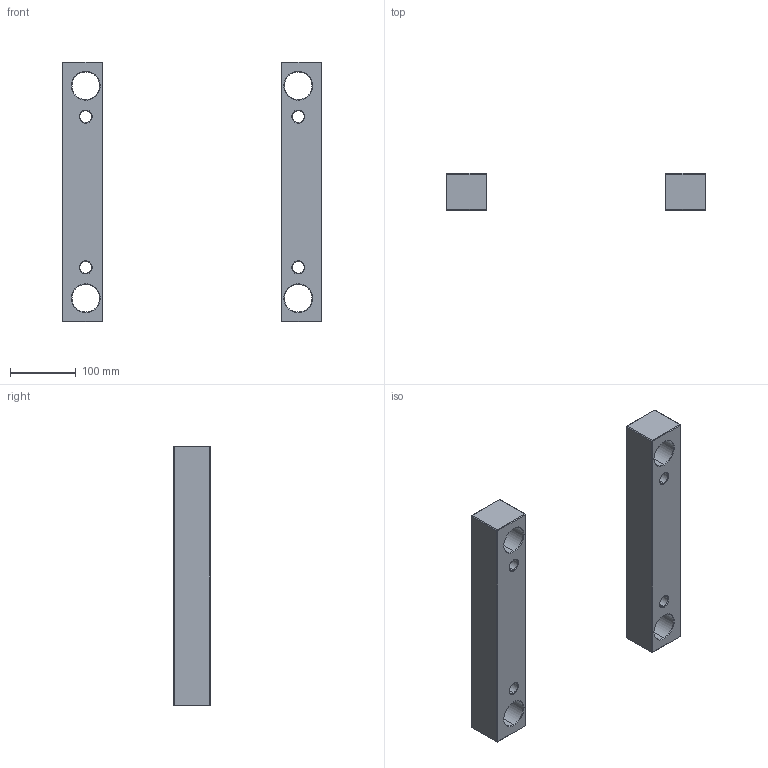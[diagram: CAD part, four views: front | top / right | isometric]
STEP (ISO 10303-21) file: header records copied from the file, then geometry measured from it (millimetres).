
FILE_DESCRIPTION (( 'STEP AP214' ), '1' );
FILE_NAME ('ESP-EU-396X396x56.STEP', '2020-04-16T11:27:01', ( 'August' ), ( '' ), 'SwSTEP 2.0', 'SolidWorks 2018', '' );
FILE_SCHEMA (( 'AUTOMOTIVE_DESIGN' ));
Length unit declared in the file: millimetre
Products named in the file (1): ESP-EU-396X396x56
Bounding box: 396 x 56 x 396 mm (x, y, z)
Volume: 2379667.8 mm3; surface area: 226626.4 mm2
Topology: 2 solids, 2 shells, 100 faces, 208 edges, 112 vertices
Faces by surface type: plane 52, cone 32, cylinder 16
Entity records: 2631 total; most frequent: DIRECTION 474, CARTESIAN_POINT 421, ORIENTED_EDGE 416, EDGE_CURVE 208, AXIS2_PLACEMENT_3D 165, LINE 144, VECTOR 144, EDGE_LOOP 116
